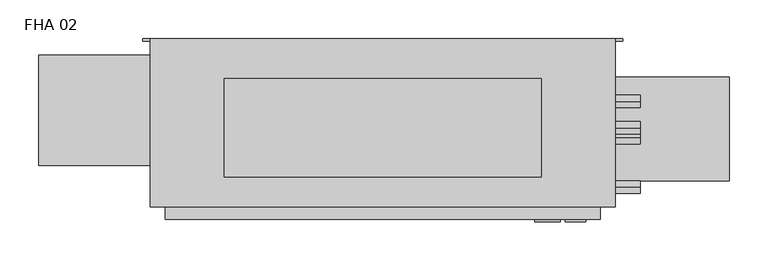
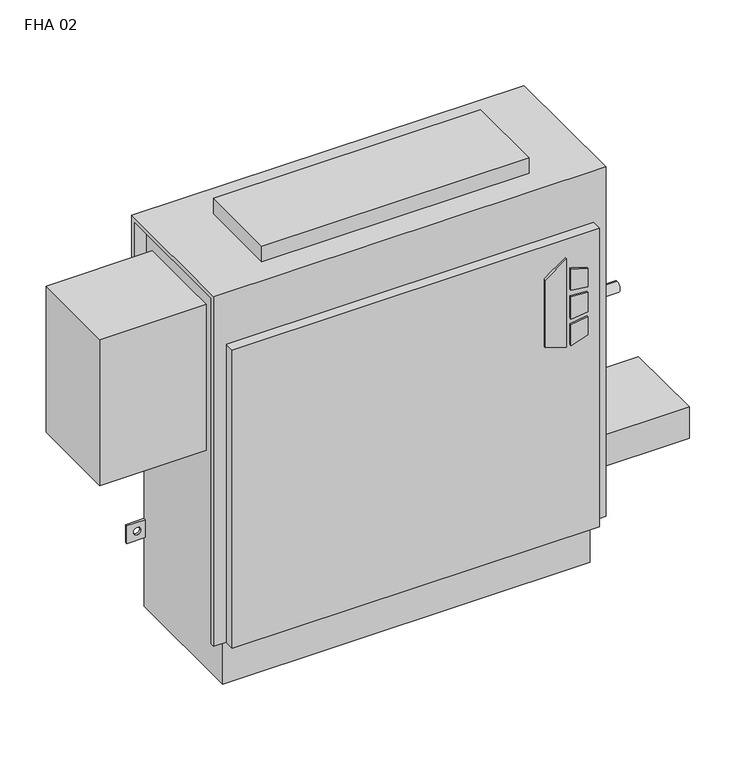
"""IFC4 building model written with IfcOpenShell, lengths in millimetres: proxy geometry, Vertical_Fan_Coil_Unit_-_FHA_-_IEC_-_4-Pipe_TS-FR_RH_2022 : FHA 02."""

from ifc_helpers import new_model, si_unit, point, frame, frame_2d, origin, place, context, project, spatial, polyline, circle_curve, trimmed, segment, composite_curve, outline, extrude, source, transform, mapped, element, save
from ifc_brep_helpers import plane_surface, revolved_surface, advanced_brep


def fha_02_94c6c80d(model_context):
    return source(origin(), model_context, "Body", "SolidModel", [
        extrude(outline(polyline([(391.6086829, 347.7368862), (381.6606126, 379.9102728), (523.831537, 379.9102728), (500.8095309, 347.7368862), (391.6086829, 347.7368862)])), frame((0.0, 9.525, 0.0), z_axis=(0.0, 1.0, 0.0), x_axis=(0.0, 0.0, 1.0)), (0.0, 0.0, 1.0), 3.175),
        extrude(outline(polyline([(470.6079683, 386.6686058), (467.4055757, 412.75), (496.6344168, 412.75), (504.6988318, 386.6686058), (470.6079683, 386.6686058)])), frame((0.0, 9.525, 0.0), z_axis=(0.0, 1.0, 0.0), x_axis=(0.0, 0.0, 1.0)), (0.0, 0.0, 1.0), 3.175),
        extrude(outline(polyline([(418.7444414, 412.75), (415.0789404, 386.6686058), (381.6606126, 386.6686058), (390.2948498, 412.75), (418.7444414, 412.75)])), frame((0.0, 9.525, 0.0), z_axis=(0.0, 1.0, 0.0), x_axis=(0.0, 0.0, 1.0)), (0.0, 0.0, 1.0), 3.175),
        extrude(outline(polyline([(458.0596028, 412.75), (460.3414292, 386.6686058), (424.4038806, 386.6686058), (427.1451456, 412.75), (458.0596028, 412.75)])), frame((0.0, 9.525, 0.0), z_axis=(0.0, 1.0, 0.0), x_axis=(0.0, 0.0, 1.0)), (0.0, 0.0, 1.0), 3.175),
        extrude(outline(composite_curve([segment(trimmed(circle_curve(frame_2d((495.3, 128.5875)), 9.525), [point((485.775, 128.5875))], [point((504.825, 128.5875))], False, "CARTESIAN"), True, "CONTINUOUS"), segment(trimmed(circle_curve(frame_2d((495.3, 128.5875)), 9.525), [point((504.825, 128.5875))], [point((485.775, 128.5875))], False, "CARTESIAN"), True, "CONTINUOUS")], self_intersect=False)), frame((0.0, 0.0, 101.6), z_axis=(0.0, 0.0, 1.0), x_axis=(1.0, 0.0, 0.0)), (0.0, 0.0, 1.0), 25.4),
        extrude(outline(polyline([(596.9, 195.2625), (596.9, 61.9125), (431.8, 61.9125), (431.8, 195.2625), (596.9, 195.2625)])), frame((0.0, 0.0, 127.0), z_axis=(0.0, 0.0, 1.0), x_axis=(1.0, 0.0, 0.0)), (0.0, 0.0, 1.0), 50.8),
        extrude(outline(polyline([(355.6, 193.675), (355.6, 66.675), (-50.8, 66.675), (-50.8, 193.675), (355.6, 193.675)])), frame((0.0, 0.0, 635.0), z_axis=(0.0, 0.0, 1.0), x_axis=(1.0, 0.0, 0.0)), (0.0, 0.0, 1.0), 25.4),
        extrude(outline(composite_curve([segment(trimmed(circle_curve(frame_2d((117.475, 472.44)), 7.9375), [point((117.475, 464.5025))], [point((117.475, 480.3775))], False, "CARTESIAN"), True, "CONTINUOUS"), segment(trimmed(circle_curve(frame_2d((117.475, 472.44)), 7.9375), [point((117.475, 480.3775))], [point((117.475, 464.5025))], False, "CARTESIAN"), True, "CONTINUOUS")], self_intersect=False)), frame((431.8, 0.0, 0.0), z_axis=(1.0, 0.0, 0.0), x_axis=(0.0, 1.0, 0.0)), (0.0, 0.0, 1.0), 50.8),
        extrude(outline(composite_curve([segment(trimmed(circle_curve(frame_2d((164.0586, 445.897)), 7.9375), [point((164.0586, 437.9595))], [point((164.0586, 453.8345))], False, "CARTESIAN"), True, "CONTINUOUS"), segment(trimmed(circle_curve(frame_2d((164.0586, 445.897)), 7.9375), [point((164.0586, 453.8345))], [point((164.0586, 437.9595))], False, "CARTESIAN"), True, "CONTINUOUS")], self_intersect=False)), frame((431.8, 0.0, 0.0), z_axis=(1.0, 0.0, 0.0), x_axis=(0.0, 1.0, 0.0)), (0.0, 0.0, 1.0), 50.8),
        extrude(outline(composite_curve([segment(trimmed(circle_curve(frame_2d((130.175, 554.99)), 7.9502), [point((130.175, 547.0398))], [point((130.175, 562.9402))], False, "CARTESIAN"), True, "CONTINUOUS"), segment(trimmed(circle_curve(frame_2d((130.175, 554.99)), 7.9502), [point((130.175, 562.9402))], [point((130.175, 547.0398))], False, "CARTESIAN"), True, "CONTINUOUS")], self_intersect=False)), frame((431.8, 0.0, 0.0), z_axis=(1.0, 0.0, 0.0), x_axis=(0.0, 1.0, 0.0)), (0.0, 0.0, 1.0), 50.8),
        extrude(outline(composite_curve([segment(trimmed(circle_curve(frame_2d((53.975, 416.56)), 7.9502), [point((53.975, 408.6098))], [point((53.975, 424.5102))], False, "CARTESIAN"), True, "CONTINUOUS"), segment(trimmed(circle_curve(frame_2d((53.975, 416.56)), 7.9502), [point((53.975, 424.5102))], [point((53.975, 408.6098))], False, "CARTESIAN"), True, "CONTINUOUS")], self_intersect=False)), frame((431.8, 0.0, 0.0), z_axis=(1.0, 0.0, 0.0), x_axis=(0.0, 1.0, 0.0)), (0.0, 0.0, 1.0), 50.8),
        extrude(outline(polyline([(-288.925, 223.266), (-127.0, 223.266), (-127.0, 81.534), (-288.925, 81.534), (-288.925, 223.266)])), frame((0.0, 0.0, 349.25), z_axis=(0.0, 0.0, 1.0), x_axis=(1.0, 0.0, 0.0)), (0.0, 0.0, 1.0), 234.95),
        advanced_brep(
        [(450.85, 244.475, 635.0), (-146.05, 244.475, 635.0), (-146.05, 28.575, 635.0), (450.85, 28.575, 635.0), (-127.0, 244.475, 0.0), (431.8, 244.475, 0.0), (431.8, 38.1, 0.0), (-127.0, 38.1, 0.0), (450.85, 244.475, 558.8), (431.8, 244.475, 558.8), (431.8, 244.475, 414.3375), (460.375, 244.475, 414.3375), (460.375, 244.475, 385.7625), (431.8, 244.475, 385.7625), (431.8, 244.475, 287.3375), (460.375, 244.475, 287.3375), (460.375, 244.475, 258.7625), (431.8, 244.475, 258.7625), (431.8, 244.475, 141.2875), (460.375, 244.475, 141.2875), (460.375, 244.475, 112.7125), (431.8, 244.475, 112.7125), (-127.0, 244.475, 112.7125), (-155.575, 244.475, 112.7125), (-155.575, 244.475, 141.2875), (-127.0, 244.475, 141.2875), (-127.0, 244.475, 258.7625), (-155.575, 244.475, 258.7625), (-155.575, 244.475, 287.3375), (-127.0, 244.475, 287.3375), (-127.0, 244.475, 385.7625), (-155.575, 244.475, 385.7625), (-155.575, 244.475, 414.3375), (-127.0, 244.475, 414.3375), (-127.0, 244.475, 558.8), (-146.05, 244.475, 558.8), (450.0626, 244.475, 127.0), (438.9374, 244.475, 127.0), (-134.1374, 244.475, 127.0), (-145.2626, 244.475, 127.0), (450.0626, 244.475, 273.05), (438.9374, 244.475, 273.05), (-134.1374, 244.475, 273.05), (-145.2626, 244.475, 273.05), (450.0626, 244.475, 400.05), (438.9374, 244.475, 400.05), (-134.1374, 244.475, 400.05), (-145.2626, 244.475, 400.05), (-146.05, 238.125, 558.8), (-146.05, 238.125, 628.65), (-146.05, 34.925, 628.65), (-146.05, 34.925, 73.025), (-146.05, 28.575, 73.025), (431.8, 12.7, 552.45), (-127.0, 12.7, 552.45), (-127.0, 12.7, 73.025), (431.8, 12.7, 73.025), (450.85, 28.575, 73.025), (450.85, 34.925, 73.025), (450.85, 34.925, 628.65), (450.85, 238.125, 628.65), (450.85, 238.125, 558.8), (-127.0, 28.575, 73.025), (-127.0, 28.575, 552.45), (431.8, 28.575, 552.45), (431.8, 28.575, 73.025), (-127.0, 34.925, 73.025), (-127.0, 38.1, 73.025), (431.8, 38.1, 73.025), (431.8, 34.925, 73.025), (431.8, 241.3, 112.7125), (431.8, 241.3, 141.2875), (431.8, 241.3, 258.7625), (431.8, 241.3, 287.3375), (431.8, 241.3, 385.7625), (431.8, 241.3, 414.3375), (431.8, 238.125, 558.8), (431.8, 238.125, 628.65), (431.8, 34.925, 628.65), (-127.0, 34.925, 628.65), (-127.0, 238.125, 628.65), (-127.0, 238.125, 558.8), (-127.0, 241.3, 414.3375), (-127.0, 241.3, 385.7625), (-127.0, 241.3, 287.3375), (-127.0, 241.3, 258.7625), (-127.0, 241.3, 141.2875), (-127.0, 241.3, 112.7125), (460.375, 241.3, 112.7125), (460.375, 241.3, 141.2875), (438.9374, 241.3, 127.0), (450.0626, 241.3, 127.0), (460.375, 241.3, 258.7625), (460.375, 241.3, 287.3375), (438.9374, 241.3, 273.05), (450.0626, 241.3, 273.05), (460.375, 241.3, 385.7625), (460.375, 241.3, 414.3375), (438.9374, 241.3, 400.05), (450.0626, 241.3, 400.05), (-155.575, 241.3, 141.2875), (-155.575, 241.3, 112.7125), (-145.2626, 241.3, 127.0), (-134.1374, 241.3, 127.0), (-155.575, 241.3, 287.3375), (-155.575, 241.3, 258.7625), (-145.2626, 241.3, 273.05), (-134.1374, 241.3, 273.05), (-155.575, 241.3, 414.3375), (-155.575, 241.3, 385.7625), (-145.2626, 241.3, 400.05), (-134.1374, 241.3, 400.05)],
        [
            (0, 1),
            (1, 2),
            (2, 3),
            (3, 0),
            (4, 5),
            (5, 6),
            (6, 7),
            (7, 4),
            (0, 8),
            (8, 9),
            (9, 10),
            (10, 11),
            (11, 12),
            (12, 13),
            (13, 14),
            (14, 15),
            (15, 16),
            (16, 17),
            (17, 18),
            (18, 19),
            (19, 20),
            (20, 21),
            (21, 5),
            (4, 22),
            (22, 23),
            (23, 24),
            (24, 25),
            (25, 26),
            (26, 27),
            (27, 28),
            (28, 29),
            (29, 30),
            (30, 31),
            (31, 32),
            (32, 33),
            (33, 34),
            (34, 35),
            (35, 1),
            (36, 37, circle_curve(frame((444.5, 244.475, 127.0), z_axis=(0.0, -1.0, 0.0), x_axis=(-1.0, 0.0, 0.0)), 5.5626)),
            (37, 36, circle_curve(frame((444.5, 244.475, 127.0), z_axis=(0.0, -1.0, 0.0), x_axis=(-1.0, 0.0, 0.0)), 5.5626)),
            (38, 39, circle_curve(frame((-139.7, 244.475, 127.0), z_axis=(0.0, -1.0, 0.0), x_axis=(-1.0, 0.0, 0.0)), 5.5626)),
            (39, 38, circle_curve(frame((-139.7, 244.475, 127.0), z_axis=(0.0, -1.0, 0.0), x_axis=(-1.0, 0.0, 0.0)), 5.5626)),
            (40, 41, circle_curve(frame((444.5, 244.475, 273.05), z_axis=(0.0, -1.0, 0.0), x_axis=(-1.0, 0.0, 0.0)), 5.5626)),
            (41, 40, circle_curve(frame((444.5, 244.475, 273.05), z_axis=(0.0, -1.0, 0.0), x_axis=(-1.0, 0.0, 0.0)), 5.5626)),
            (42, 43, circle_curve(frame((-139.7, 244.475, 273.05), z_axis=(0.0, -1.0, 0.0), x_axis=(-1.0, 0.0, 0.0)), 5.5626)),
            (43, 42, circle_curve(frame((-139.7, 244.475, 273.05), z_axis=(0.0, -1.0, 0.0), x_axis=(-1.0, 0.0, 0.0)), 5.5626)),
            (44, 45, circle_curve(frame((444.5, 244.475, 400.05), z_axis=(0.0, -1.0, 0.0), x_axis=(-1.0, 0.0, 0.0)), 5.5626)),
            (45, 44, circle_curve(frame((444.5, 244.475, 400.05), z_axis=(0.0, -1.0, 0.0), x_axis=(-1.0, 0.0, 0.0)), 5.5626)),
            (46, 47, circle_curve(frame((-139.7, 244.475, 400.05), z_axis=(0.0, -1.0, 0.0), x_axis=(-1.0, 0.0, 0.0)), 5.5626)),
            (47, 46, circle_curve(frame((-139.7, 244.475, 400.05), z_axis=(0.0, -1.0, 0.0), x_axis=(-1.0, 0.0, 0.0)), 5.5626)),
            (35, 48),
            (48, 49),
            (49, 50),
            (50, 51),
            (51, 52),
            (52, 2),
            (53, 54),
            (54, 55),
            (55, 56),
            (56, 53),
            (3, 57),
            (57, 58),
            (58, 59),
            (59, 60),
            (60, 61),
            (61, 8),
            (52, 62),
            (62, 63),
            (63, 64),
            (64, 65),
            (65, 57),
            (53, 64),
            (63, 54),
            (55, 62),
            (51, 66),
            (66, 67),
            (67, 68),
            (68, 69),
            (69, 58),
            (65, 56),
            (6, 68),
            (67, 7),
            (21, 70),
            (70, 71),
            (71, 18),
            (17, 72),
            (72, 73),
            (73, 14),
            (13, 74),
            (74, 75),
            (75, 10),
            (9, 76),
            (76, 77),
            (77, 78),
            (78, 69),
            (66, 79),
            (79, 80),
            (80, 81),
            (81, 34),
            (33, 82),
            (82, 83),
            (83, 30),
            (29, 84),
            (84, 85),
            (85, 26),
            (25, 86),
            (86, 87),
            (87, 22),
            (76, 61),
            (60, 77),
            (78, 59),
            (50, 79),
            (81, 48),
            (80, 49),
            (70, 88),
            (88, 89),
            (89, 71),
            (90, 91, circle_curve(frame((444.5, 241.3, 127.0), z_axis=(0.0, 1.0, 0.0), x_axis=(-1.0, 0.0, 0.0)), 5.5626)),
            (91, 90, circle_curve(frame((444.5, 241.3, 127.0), z_axis=(0.0, 1.0, 0.0), x_axis=(-1.0, 0.0, 0.0)), 5.5626)),
            (92, 93),
            (93, 73),
            (72, 92),
            (94, 95, circle_curve(frame((444.5, 241.3, 273.05), z_axis=(0.0, 1.0, 0.0), x_axis=(-1.0, 0.0, 0.0)), 5.5626)),
            (95, 94, circle_curve(frame((444.5, 241.3, 273.05), z_axis=(0.0, 1.0, 0.0), x_axis=(-1.0, 0.0, 0.0)), 5.5626)),
            (96, 97),
            (97, 75),
            (74, 96),
            (98, 99, circle_curve(frame((444.5, 241.3, 400.05), z_axis=(0.0, 1.0, 0.0), x_axis=(-1.0, 0.0, 0.0)), 5.5626)),
            (99, 98, circle_curve(frame((444.5, 241.3, 400.05), z_axis=(0.0, 1.0, 0.0), x_axis=(-1.0, 0.0, 0.0)), 5.5626)),
            (100, 101),
            (101, 87),
            (86, 100),
            (102, 103, circle_curve(frame((-139.7, 241.3, 127.0), z_axis=(0.0, 1.0, 0.0), x_axis=(-1.0, 0.0, 0.0)), 5.5626)),
            (103, 102, circle_curve(frame((-139.7, 241.3, 127.0), z_axis=(0.0, 1.0, 0.0), x_axis=(-1.0, 0.0, 0.0)), 5.5626)),
            (84, 104),
            (104, 105),
            (105, 85),
            (106, 107, circle_curve(frame((-139.7, 241.3, 273.05), z_axis=(0.0, 1.0, 0.0), x_axis=(-1.0, 0.0, 0.0)), 5.5626)),
            (107, 106, circle_curve(frame((-139.7, 241.3, 273.05), z_axis=(0.0, 1.0, 0.0), x_axis=(-1.0, 0.0, 0.0)), 5.5626)),
            (108, 109),
            (109, 83),
            (82, 108),
            (110, 111, circle_curve(frame((-139.7, 241.3, 400.05), z_axis=(0.0, 1.0, 0.0), x_axis=(-1.0, 0.0, 0.0)), 5.5626)),
            (111, 110, circle_curve(frame((-139.7, 241.3, 400.05), z_axis=(0.0, 1.0, 0.0), x_axis=(-1.0, 0.0, 0.0)), 5.5626)),
            (89, 19),
            (88, 20),
            (16, 92),
            (93, 15),
            (12, 96),
            (97, 11),
            (24, 100),
            (101, 23),
            (105, 27),
            (104, 28),
            (32, 108),
            (109, 31),
            (90, 37),
            (36, 91),
            (102, 39),
            (38, 103),
            (94, 41),
            (40, 95),
            (106, 43),
            (42, 107),
            (98, 45),
            (44, 99),
            (110, 47),
            (46, 111),
        ],
        [
            plane_surface(frame((-146.05, 244.475, 635.0), z_axis=(0.0, 0.0, 1.0), x_axis=(-1.0, 0.0, 0.0))),
            plane_surface(frame((-146.05, 244.475, 0.0), z_axis=(0.0, 0.0, -1.0), x_axis=(1.0, 0.0, 0.0))),
            plane_surface(frame((450.85, 244.475, 635.0), z_axis=(0.0, 1.0, 0.0), x_axis=(0.0, 0.0, -1.0))),
            plane_surface(frame((-146.05, 244.475, 635.0), z_axis=(-1.0, 0.0, 0.0), x_axis=(0.0, 0.0, -1.0))),
            plane_surface(frame((-146.05, 12.7, 635.0), z_axis=(0.0, -1.0, 0.0), x_axis=(0.0, 0.0, -1.0))),
            plane_surface(frame((450.85, 12.7, 635.0), z_axis=(1.0, 0.0, 0.0), x_axis=(0.0, 0.0, -1.0))),
            plane_surface(frame((-146.05, 28.575, 635.0), z_axis=(0.0, -1.0, 0.0), x_axis=(1.0, 0.0, 0.0))),
            plane_surface(frame((-146.05, 28.575, 552.45), z_axis=(0.0, 0.0, 1.0), x_axis=(1.0, 0.0, 0.0))),
            plane_surface(frame((-146.05, 12.7, 73.025), z_axis=(0.0, 0.0, -1.0), x_axis=(1.0, 0.0, 0.0))),
            plane_surface(frame((-146.05, 38.1, 73.025), z_axis=(0.0, -1.0, 0.0), x_axis=(1.0, 0.0, 0.0))),
            plane_surface(frame((431.8, 28.575, 73.025), z_axis=(1.0, 0.0, 0.0), x_axis=(0.0, -1.0, 0.0))),
            plane_surface(frame((-127.0, 28.575, 552.45), z_axis=(-1.0, 0.0, 0.0), x_axis=(0.0, -1.0, 0.0))),
            plane_surface(frame((431.8, 244.475, 0.0), z_axis=(1.0, 0.0, 0.0), x_axis=(0.0, -1.0, 0.0))),
            plane_surface(frame((-127.0, 244.475, 73.025), z_axis=(-1.0, 0.0, 0.0), x_axis=(0.0, -1.0, 0.0))),
            plane_surface(frame((431.8, 238.125, 628.65), z_axis=(0.0, -1.0, 0.0), x_axis=(1.0, 0.0, 0.0))),
            plane_surface(frame((431.8, 238.125, 558.8), z_axis=(0.0, 0.0, -1.0), x_axis=(1.0, 0.0, 0.0))),
            plane_surface(frame((431.8, 34.925, 73.025), z_axis=(0.0, 1.0, 0.0), x_axis=(1.0, 0.0, 0.0))),
            plane_surface(frame((431.8, 34.925, 628.65), z_axis=(0.0, 0.0, -1.0), x_axis=(1.0, 0.0, 0.0))),
            plane_surface(frame((-127.0, 34.925, 628.65), z_axis=(0.0, 1.0, 0.0), x_axis=(-1.0, 0.0, 0.0))),
            plane_surface(frame((-127.0, 244.475, 558.8), z_axis=(0.0, 0.0, -1.0), x_axis=(-1.0, 0.0, 0.0))),
            plane_surface(frame((-127.0, 238.125, 558.8), z_axis=(0.0, -1.0, 0.0), x_axis=(-1.0, 0.0, 0.0))),
            plane_surface(frame((-127.0, 238.125, 628.65), z_axis=(0.0, 0.0, -1.0), x_axis=(-1.0, 0.0, 0.0))),
            plane_surface(frame((460.375, 241.3, 141.2875), z_axis=(0.0, -1.0, 0.0), x_axis=(-1.0, 0.0, 0.0))),
            plane_surface(frame((431.8, 244.475, 141.2875), z_axis=(0.0, 0.0, 1.0), x_axis=(0.0, -1.0, 0.0))),
            plane_surface(frame((460.375, 244.475, 141.2875), z_axis=(1.0, 0.0, 0.0), x_axis=(0.0, -1.0, 0.0))),
            plane_surface(frame((460.375, 244.475, 112.7125), z_axis=(0.0, 0.0, -1.0), x_axis=(0.0, -1.0, 0.0))),
            plane_surface(frame((460.375, 244.475, 258.7625), z_axis=(0.0, 0.0, -1.0), x_axis=(0.0, -1.0, 0.0))),
            plane_surface(frame((431.8, 244.475, 287.3375), z_axis=(0.0, 0.0, 1.0), x_axis=(0.0, -1.0, 0.0))),
            plane_surface(frame((460.375, 244.475, 287.3375), z_axis=(1.0, 0.0, 0.0), x_axis=(0.0, -1.0, 0.0))),
            plane_surface(frame((460.375, 244.475, 385.7625), z_axis=(0.0, 0.0, -1.0), x_axis=(0.0, -1.0, 0.0))),
            plane_surface(frame((431.8, 244.475, 414.3375), z_axis=(0.0, 0.0, 1.0), x_axis=(0.0, -1.0, 0.0))),
            plane_surface(frame((460.375, 244.475, 414.3375), z_axis=(1.0, 0.0, 0.0), x_axis=(0.0, -1.0, 0.0))),
            plane_surface(frame((-155.575, 244.475, 141.2875), z_axis=(0.0, 0.0, 1.0), x_axis=(0.0, -1.0, 0.0))),
            plane_surface(frame((-127.0, 244.475, 112.7125), z_axis=(0.0, 0.0, -1.0), x_axis=(0.0, -1.0, 0.0))),
            plane_surface(frame((-155.575, 244.475, 112.7125), z_axis=(-1.0, 0.0, 0.0), x_axis=(0.0, -1.0, 0.0))),
            plane_surface(frame((-127.0, 244.475, 258.7625), z_axis=(0.0, 0.0, -1.0), x_axis=(0.0, -1.0, 0.0))),
            plane_surface(frame((-155.575, 244.475, 258.7625), z_axis=(-1.0, 0.0, 0.0), x_axis=(0.0, -1.0, 0.0))),
            plane_surface(frame((-155.575, 244.475, 287.3375), z_axis=(0.0, 0.0, 1.0), x_axis=(0.0, -1.0, 0.0))),
            plane_surface(frame((-155.575, 244.475, 414.3375), z_axis=(0.0, 0.0, 1.0), x_axis=(0.0, -1.0, 0.0))),
            plane_surface(frame((-127.0, 244.475, 385.7625), z_axis=(0.0, 0.0, -1.0), x_axis=(0.0, -1.0, 0.0))),
            plane_surface(frame((-155.575, 244.475, 385.7625), z_axis=(-1.0, 0.0, 0.0), x_axis=(0.0, -1.0, 0.0))),
            revolved_surface(polyline([(438.9374, 241.3, 127.0), (438.9374, 244.475, 127.0)]), (444.5, 244.475, 127.0), (0.0, -1.0, 0.0)),
            revolved_surface(polyline([(-145.2626, 241.3, 127.0), (-145.2626, 244.475, 127.0)]), (-139.7, 244.475, 127.0), (0.0, -1.0, 0.0)),
            revolved_surface(polyline([(438.9374, 241.3, 273.05), (438.9374, 244.475, 273.05)]), (444.5, 244.475, 273.05), (0.0, -1.0, 0.0)),
            revolved_surface(polyline([(-145.2626, 241.3, 273.05), (-145.2626, 244.475, 273.05)]), (-139.7, 244.475, 273.05), (0.0, -1.0, 0.0)),
            revolved_surface(polyline([(438.9374, 241.3, 400.05), (438.9374, 244.475, 400.05)]), (444.5, 244.475, 400.05), (0.0, -1.0, 0.0)),
            revolved_surface(polyline([(-145.2626, 241.3, 400.05), (-145.2626, 244.475, 400.05)]), (-139.7, 244.475, 400.05), (0.0, -1.0, 0.0)),
        ],
        [
            (0, [[1, 2, 3, 4]]),
            (1, [[5, 6, 7, 8]]),
            (2, [[-1, 9, 10, 11, 12, 13, 14, 15, 16, 17, 18, 19, 20, 21, 22, 23, -5, 24, 25, 26, 27, 28, 29, 30, 31, 32, 33, 34, 35, 36, 37, 38], [39, 40], [41, 42], [43, 44], [45, 46], [47, 48], [49, 50]]),
            (3, [[-2, -38, 51, 52, 53, 54, 55, 56]]),
            (4, [[57, 58, 59, 60]]),
            (5, [[-4, 61, 62, 63, 64, 65, 66, -9]]),
            (6, [[-3, -56, 67, 68, 69, 70, 71, -61]]),
            (7, [[-57, 72, -69, 73]]),
            (8, [[-59, 74, -67, -55, 75, 76, 77, 78, 79, -62, -71, 80]]),
            (9, [[-7, 81, -77, 82]]),
            (10, [[-70, -72, -60, -80]]),
            (11, [[-68, -74, -58, -73]]),
            (12, [[-6, -23, 83, 84, 85, -19, 86, 87, 88, -15, 89, 90, 91, -11, 92, 93, 94, 95, -78, -81]]),
            (13, [[-8, -82, -76, 96, 97, 98, 99, -36, 100, 101, 102, -32, 103, 104, 105, -28, 106, 107, 108, -24]]),
            (14, [[-93, 109, -65, 110]]),
            (15, [[-92, -10, -66, -109]]),
            (16, [[-95, 111, -63, -79]]),
            (17, [[-94, -110, -64, -111]]),
            (18, [[-96, -75, -54, 112]]),
            (19, [[-99, 113, -51, -37]]),
            (20, [[-98, 114, -52, -113]]),
            (21, [[-97, -112, -53, -114]]),
            (22, [[115, 116, 117, -84], [118, 119]]),
            (22, [[120, 121, -87, 122], [123, 124]]),
            (22, [[125, 126, -90, 127], [128, 129]]),
            (22, [[130, 131, -107, 132], [133, 134]]),
            (22, [[135, 136, 137, -104], [138, 139]]),
            (22, [[140, 141, -101, 142], [143, 144]]),
            (23, [[-117, 145, -20, -85]]),
            (24, [[-116, 146, -21, -145]]),
            (25, [[-115, -83, -22, -146]]),
            (26, [[-122, -86, -18, 147]]),
            (27, [[-121, 148, -16, -88]]),
            (28, [[-120, -147, -17, -148]]),
            (29, [[-127, -89, -14, 149]]),
            (30, [[-126, 150, -12, -91]]),
            (31, [[-125, -149, -13, -150]]),
            (32, [[-132, -106, -27, 151]]),
            (33, [[-131, 152, -25, -108]]),
            (34, [[-130, -151, -26, -152]]),
            (35, [[-137, 153, -29, -105]]),
            (36, [[-136, 154, -30, -153]]),
            (37, [[-135, -103, -31, -154]]),
            (38, [[-142, -100, -35, 155]]),
            (39, [[-141, 156, -33, -102]]),
            (40, [[-140, -155, -34, -156]]),
            (41, [[157, -39, 158, -118]]),
            (41, [[-157, -119, -158, -40]]),
            (42, [[159, -41, 160, -133]]),
            (42, [[-159, -134, -160, -42]]),
            (43, [[161, -43, 162, -123]]),
            (43, [[-161, -124, -162, -44]]),
            (44, [[163, -45, 164, -138]]),
            (44, [[-163, -139, -164, -46]]),
            (45, [[165, -47, 166, -128]]),
            (45, [[-165, -129, -166, -48]]),
            (46, [[167, -49, 168, -143]]),
            (46, [[-167, -144, -168, -50]]),
        ],
    ),
    ])


if __name__ == "__main__":
    model = new_model("IFC4")
    model_context = context("Model", 3, world=origin())
    ifc_project = project(units=[si_unit("LENGTHUNIT", "METRE", prefix="MILLI")], contexts=[model_context])
    site = spatial("IfcSite", under=ifc_project)
    building = spatial("IfcBuilding", under=site)
    placement = place(None, origin())
    fha_02_shape = fha_02_94c6c80d(model_context)
    element("IfcBuildingElementProxy", 1, Name="Vertical_Fan_Coil_Unit_-_FHA_-_IEC_-_4-Pipe_TS-FR_RH_2022 : FHA 02", ObjectType="Vertical_Fan_Coil_Unit_-_FHA_-_IEC_-_4-Pipe_TS-FR_RH_2022 : FHA 02", at=placement, inside=building, context=model_context, shape_type="MappedRepresentation", body=[
        mapped(fha_02_shape, transform((0.0, 0.0, 0.0), x_axis=(1.0, 0.0, 0.0), y_axis=(0.0, 1.0, 0.0), z_axis=(0.0, 0.0, 1.0))),
    ])
    save(model, "model.ifc")
